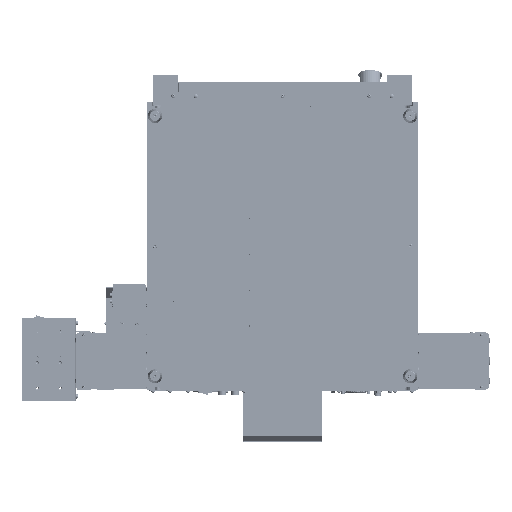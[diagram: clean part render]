
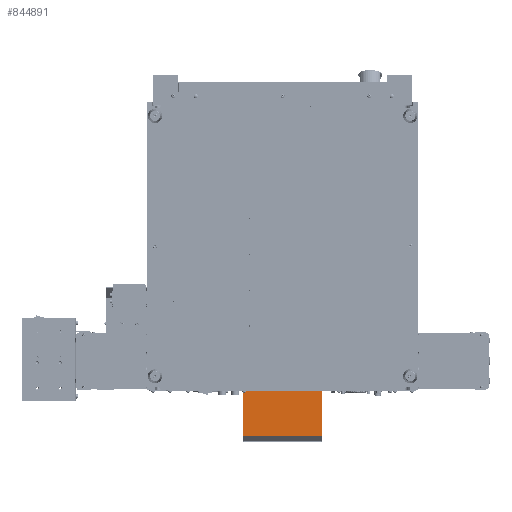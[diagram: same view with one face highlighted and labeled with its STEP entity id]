
A CAD part, front view. The second image highlights one B-rep face of the part: STEP entity #844891.
In plain terms, the highlighted planar face has unit normal (0, -1, 0).
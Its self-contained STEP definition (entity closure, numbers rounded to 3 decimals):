
#316341 = PLANE('',#316342);
#316342 = AXIS2_PLACEMENT_3D('',#316343,#316344,#316345);
#316343 = CARTESIAN_POINT('',(77.5,42.,-617.));
#316344 = DIRECTION('',(1.,0.,0.));
#316345 = DIRECTION('',(0.,0.,-1.));
#316854 = PLANE('',#316855);
#316855 = AXIS2_PLACEMENT_3D('',#316856,#316857,#316858);
#316856 = CARTESIAN_POINT('',(-77.5,42.,-617.));
#316857 = DIRECTION('',(-1.,0.,0.));
#316858 = DIRECTION('',(0.,0.,1.));
#498086 = PLANE('',#498087);
#498087 = AXIS2_PLACEMENT_3D('',#498088,#498089,#498090);
#498088 = CARTESIAN_POINT('',(0.,11.5,-617.
    ));
#498089 = DIRECTION('',(0.,0.,1.));
#498090 = DIRECTION('',(1.,0.,0.));
#498212 = PLANE('',#498213);
#498213 = AXIS2_PLACEMENT_3D('',#498214,#498215,#498216);
#498214 = CARTESIAN_POINT('',(0.,11.5,-617.
    ));
#498215 = DIRECTION('',(0.,0.,1.));
#498216 = DIRECTION('',(1.,0.,0.));
#822139 = VERTEX_POINT('',#822140);
#822140 = CARTESIAN_POINT('',(9.737,42.,-617.));
#822177 = PLANE('',#822178);
#822178 = AXIS2_PLACEMENT_3D('',#822179,#822180,#822181);
#822179 = CARTESIAN_POINT('',(77.5,42.,-617.));
#822180 = DIRECTION('',(0.,0.,1.));
#822181 = DIRECTION('',(1.,0.,0.));
#822202 = VERTEX_POINT('',#822203);
#822203 = CARTESIAN_POINT('',(-74.737,42.,-617.));
#822396 = EDGE_CURVE('',#822139,#822202,#822397,.T.);
#822397 = SURFACE_CURVE('',#822398,(#822402,#822409),.PCURVE_S1.);
#822398 = LINE('',#822399,#822400);
#822399 = CARTESIAN_POINT('',(77.5,42.,-617.));
#822400 = VECTOR('',#822401,1.);
#822401 = DIRECTION('',(-1.,0.,0.));
#822402 = PCURVE('',#822177,#822403);
#822403 = DEFINITIONAL_REPRESENTATION('',(#822404),#822408);
#822404 = LINE('',#822405,#822406);
#822405 = CARTESIAN_POINT('',(0.,0.));
#822406 = VECTOR('',#822407,1.);
#822407 = DIRECTION('',(-1.,0.));
#822408 = ( GEOMETRIC_REPRESENTATION_CONTEXT(2) 
PARAMETRIC_REPRESENTATION_CONTEXT() REPRESENTATION_CONTEXT('2D SPACE',''
  ) );
#822409 = PCURVE('',#822410,#822415);
#822410 = PLANE('',#822411);
#822411 = AXIS2_PLACEMENT_3D('',#822412,#822413,#822414);
#822412 = CARTESIAN_POINT('',(77.5,42.,-617.));
#822413 = DIRECTION('',(0.,-1.,0.));
#822414 = DIRECTION('',(0.,0.,1.));
#822415 = DEFINITIONAL_REPRESENTATION('',(#822416),#822420);
#822416 = LINE('',#822417,#822418);
#822417 = CARTESIAN_POINT('',(0.,0.));
#822418 = VECTOR('',#822419,1.);
#822419 = DIRECTION('',(0.,1.));
#822420 = ( GEOMETRIC_REPRESENTATION_CONTEXT(2) 
PARAMETRIC_REPRESENTATION_CONTEXT() REPRESENTATION_CONTEXT('2D SPACE',''
  ) );
#842088 = PLANE('',#842089);
#842089 = AXIS2_PLACEMENT_3D('',#842090,#842091,#842092);
#842090 = CARTESIAN_POINT('',(77.5,52.,-717.));
#842091 = DIRECTION('',(0.,-0.707,
    -0.707));
#842092 = DIRECTION('',(1.,0.,0.));
#843807 = EDGE_CURVE('',#843808,#843810,#843812,.T.);
#843808 = VERTEX_POINT('',#843809);
#843809 = CARTESIAN_POINT('',(77.5,42.,-617.));
#843810 = VERTEX_POINT('',#843811);
#843811 = CARTESIAN_POINT('',(77.5,42.,-707.));
#843812 = SURFACE_CURVE('',#843813,(#843817,#843824),.PCURVE_S1.);
#843813 = LINE('',#843814,#843815);
#843814 = CARTESIAN_POINT('',(77.5,42.,-617.));
#843815 = VECTOR('',#843816,1.);
#843816 = DIRECTION('',(0.,0.,-1.));
#843817 = PCURVE('',#316341,#843818);
#843818 = DEFINITIONAL_REPRESENTATION('',(#843819),#843823);
#843819 = LINE('',#843820,#843821);
#843820 = CARTESIAN_POINT('',(0.,0.));
#843821 = VECTOR('',#843822,1.);
#843822 = DIRECTION('',(1.,0.));
#843823 = ( GEOMETRIC_REPRESENTATION_CONTEXT(2) 
PARAMETRIC_REPRESENTATION_CONTEXT() REPRESENTATION_CONTEXT('2D SPACE',''
  ) );
#843824 = PCURVE('',#822410,#843825);
#843825 = DEFINITIONAL_REPRESENTATION('',(#843826),#843830);
#843826 = LINE('',#843827,#843828);
#843827 = CARTESIAN_POINT('',(0.,0.));
#843828 = VECTOR('',#843829,1.);
#843829 = DIRECTION('',(-1.,0.));
#843830 = ( GEOMETRIC_REPRESENTATION_CONTEXT(2) 
PARAMETRIC_REPRESENTATION_CONTEXT() REPRESENTATION_CONTEXT('2D SPACE',''
  ) );
#844463 = VERTEX_POINT('',#844464);
#844464 = CARTESIAN_POINT('',(-77.5,42.,-707.));
#844485 = EDGE_CURVE('',#844486,#844463,#844488,.T.);
#844486 = VERTEX_POINT('',#844487);
#844487 = CARTESIAN_POINT('',(-77.5,42.,-617.));
#844488 = SURFACE_CURVE('',#844489,(#844493,#844500),.PCURVE_S1.);
#844489 = LINE('',#844490,#844491);
#844490 = CARTESIAN_POINT('',(-77.5,42.,-617.));
#844491 = VECTOR('',#844492,1.);
#844492 = DIRECTION('',(0.,0.,-1.));
#844493 = PCURVE('',#316854,#844494);
#844494 = DEFINITIONAL_REPRESENTATION('',(#844495),#844499);
#844495 = LINE('',#844496,#844497);
#844496 = CARTESIAN_POINT('',(0.,0.));
#844497 = VECTOR('',#844498,1.);
#844498 = DIRECTION('',(-1.,0.));
#844499 = ( GEOMETRIC_REPRESENTATION_CONTEXT(2) 
PARAMETRIC_REPRESENTATION_CONTEXT() REPRESENTATION_CONTEXT('2D SPACE',''
  ) );
#844500 = PCURVE('',#822410,#844501);
#844501 = DEFINITIONAL_REPRESENTATION('',(#844502),#844506);
#844502 = LINE('',#844503,#844504);
#844503 = CARTESIAN_POINT('',(0.,155.));
#844504 = VECTOR('',#844505,1.);
#844505 = DIRECTION('',(-1.,0.));
#844506 = ( GEOMETRIC_REPRESENTATION_CONTEXT(2) 
PARAMETRIC_REPRESENTATION_CONTEXT() REPRESENTATION_CONTEXT('2D SPACE',''
  ) );
#844891 = ADVANCED_FACE('',(#844892),#822410,.T.);
#844892 = FACE_BOUND('',#844893,.T.);
#844893 = EDGE_LOOP('',(#844894,#844895,#844916,#844917,#844938,#844939)
  );
#844894 = ORIENTED_EDGE('',*,*,#844485,.T.);
#844895 = ORIENTED_EDGE('',*,*,#844896,.T.);
#844896 = EDGE_CURVE('',#844463,#843810,#844897,.T.);
#844897 = SURFACE_CURVE('',#844898,(#844902,#844909),.PCURVE_S1.);
#844898 = LINE('',#844899,#844900);
#844899 = CARTESIAN_POINT('',(77.5,42.,-707.));
#844900 = VECTOR('',#844901,1.);
#844901 = DIRECTION('',(1.,0.,0.));
#844902 = PCURVE('',#822410,#844903);
#844903 = DEFINITIONAL_REPRESENTATION('',(#844904),#844908);
#844904 = LINE('',#844905,#844906);
#844905 = CARTESIAN_POINT('',(-90.,0.));
#844906 = VECTOR('',#844907,1.);
#844907 = DIRECTION('',(0.,-1.));
#844908 = ( GEOMETRIC_REPRESENTATION_CONTEXT(2) 
PARAMETRIC_REPRESENTATION_CONTEXT() REPRESENTATION_CONTEXT('2D SPACE',''
  ) );
#844909 = PCURVE('',#842088,#844910);
#844910 = DEFINITIONAL_REPRESENTATION('',(#844911),#844915);
#844911 = LINE('',#844912,#844913);
#844912 = CARTESIAN_POINT('',(0.,14.142));
#844913 = VECTOR('',#844914,1.);
#844914 = DIRECTION('',(1.,0.));
#844915 = ( GEOMETRIC_REPRESENTATION_CONTEXT(2) 
PARAMETRIC_REPRESENTATION_CONTEXT() REPRESENTATION_CONTEXT('2D SPACE',''
  ) );
#844916 = ORIENTED_EDGE('',*,*,#843807,.F.);
#844917 = ORIENTED_EDGE('',*,*,#844918,.T.);
#844918 = EDGE_CURVE('',#843808,#822139,#844919,.T.);
#844919 = SURFACE_CURVE('',#844920,(#844924,#844931),.PCURVE_S1.);
#844920 = LINE('',#844921,#844922);
#844921 = CARTESIAN_POINT('',(77.5,42.,-617.));
#844922 = VECTOR('',#844923,1.);
#844923 = DIRECTION('',(-1.,0.,0.));
#844924 = PCURVE('',#822410,#844925);
#844925 = DEFINITIONAL_REPRESENTATION('',(#844926),#844930);
#844926 = LINE('',#844927,#844928);
#844927 = CARTESIAN_POINT('',(0.,0.));
#844928 = VECTOR('',#844929,1.);
#844929 = DIRECTION('',(0.,1.));
#844930 = ( GEOMETRIC_REPRESENTATION_CONTEXT(2) 
PARAMETRIC_REPRESENTATION_CONTEXT() REPRESENTATION_CONTEXT('2D SPACE',''
  ) );
#844931 = PCURVE('',#498212,#844932);
#844932 = DEFINITIONAL_REPRESENTATION('',(#844933),#844937);
#844933 = LINE('',#844934,#844935);
#844934 = CARTESIAN_POINT('',(77.5,30.5));
#844935 = VECTOR('',#844936,1.);
#844936 = DIRECTION('',(-1.,0.));
#844937 = ( GEOMETRIC_REPRESENTATION_CONTEXT(2) 
PARAMETRIC_REPRESENTATION_CONTEXT() REPRESENTATION_CONTEXT('2D SPACE',''
  ) );
#844938 = ORIENTED_EDGE('',*,*,#822396,.T.);
#844939 = ORIENTED_EDGE('',*,*,#844940,.T.);
#844940 = EDGE_CURVE('',#822202,#844486,#844941,.T.);
#844941 = SURFACE_CURVE('',#844942,(#844946,#844953),.PCURVE_S1.);
#844942 = LINE('',#844943,#844944);
#844943 = CARTESIAN_POINT('',(77.5,42.,-617.));
#844944 = VECTOR('',#844945,1.);
#844945 = DIRECTION('',(-1.,0.,0.));
#844946 = PCURVE('',#822410,#844947);
#844947 = DEFINITIONAL_REPRESENTATION('',(#844948),#844952);
#844948 = LINE('',#844949,#844950);
#844949 = CARTESIAN_POINT('',(0.,0.));
#844950 = VECTOR('',#844951,1.);
#844951 = DIRECTION('',(0.,1.));
#844952 = ( GEOMETRIC_REPRESENTATION_CONTEXT(2) 
PARAMETRIC_REPRESENTATION_CONTEXT() REPRESENTATION_CONTEXT('2D SPACE',''
  ) );
#844953 = PCURVE('',#498086,#844954);
#844954 = DEFINITIONAL_REPRESENTATION('',(#844955),#844959);
#844955 = LINE('',#844956,#844957);
#844956 = CARTESIAN_POINT('',(77.5,30.5));
#844957 = VECTOR('',#844958,1.);
#844958 = DIRECTION('',(-1.,0.));
#844959 = ( GEOMETRIC_REPRESENTATION_CONTEXT(2) 
PARAMETRIC_REPRESENTATION_CONTEXT() REPRESENTATION_CONTEXT('2D SPACE',''
  ) );
